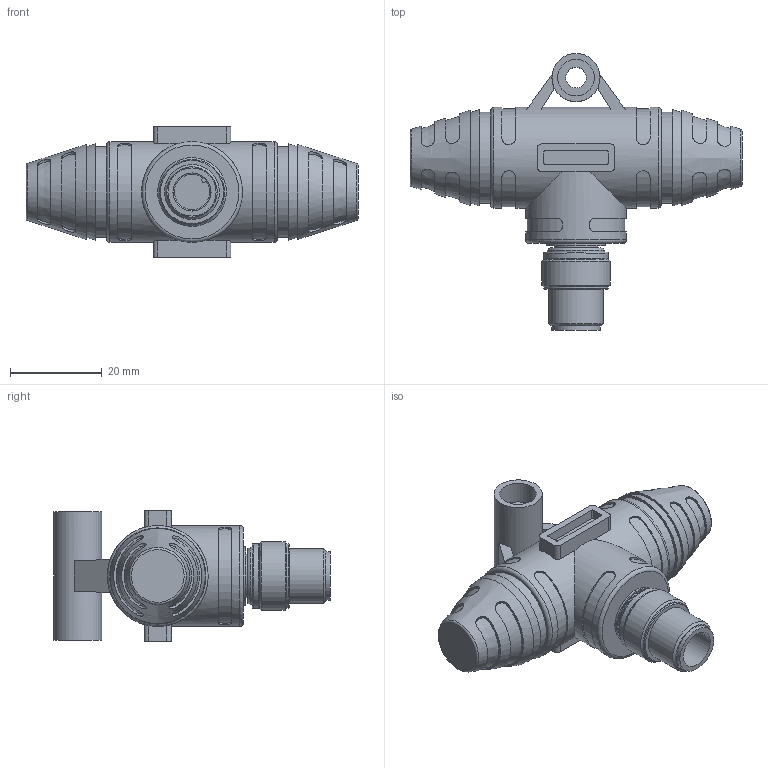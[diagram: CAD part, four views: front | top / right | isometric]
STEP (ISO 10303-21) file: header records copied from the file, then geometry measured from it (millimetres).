
FILE_DESCRIPTION(/* description */ (''),/* implementation_level */ '2;1');
FILE_NAME(/* name */ 'L:\CAD Inventor\Workspace\Catalogs\CATALOG-TURCK CONNECTORS\CM12_CABLE_FSM_CABLE.stp',/* time_stamp */ '2021-06-17T12:55:02-05:00',/* author */ ('RSwans'),/* organization */ (''),/* preprocessor_version */ 'ST-DEVELOPER v16.5',/* originating_system */ 'Autodesk Inventor 2017',/* authorisation */ '');
FILE_SCHEMA (('AUTOMOTIVE_DESIGN { 1 0 10303 214 3 1 1 }'));
Length unit declared in the file: millimetre
Products named in the file (1): Part2
Bounding box: 72.5 x 60.45 x 28.5 mm (x, y, z)
Volume: 26479.7 mm3; surface area: 12777.7 mm2
Topology: 2 solids, 3 shells, 551 faces, 1503 edges, 996 vertices
Faces by surface type: plane 260, cylinder 258, cone 19, torus 12, bspline 2
Full cylindrical faces by diameter (mm): 1 x4, 1.2 x4, 1.6 x4, 1.8 x1, 4.5 x1, 8 x2, 8.3 x1, 9.5 x1, 9.6 x1, 9.9 x1, 10 x1, 10.5 x2, 10.7 x1, 12 x3, 12.5 x1, 12.7 x1, 13.2 x1, 14.2 x2, 15 x1, 19.81 x2, 21.996 x2
Entity records: 19004 total; most frequent: CARTESIAN_POINT 4591, DIRECTION 2984, ORIENTED_EDGE 2824, EDGE_CURVE 1411, AXIS2_PLACEMENT_3D 1191, VERTEX_POINT 969, EDGE_LOOP 669, CIRCLE 620
